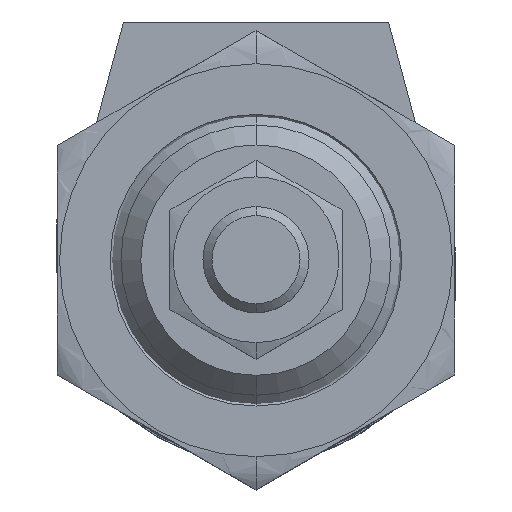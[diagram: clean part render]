
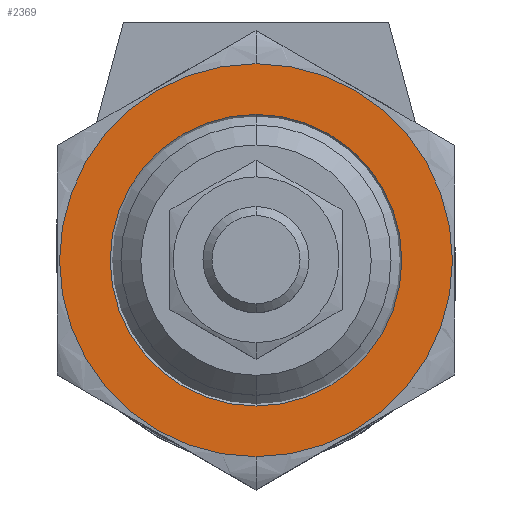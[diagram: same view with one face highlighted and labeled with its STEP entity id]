
A CAD part, top view. The second image highlights one B-rep face of the part: STEP entity #2369.
In plain terms, the highlighted planar face has unit normal (0, 0, 1).
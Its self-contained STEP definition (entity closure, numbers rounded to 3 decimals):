
#2064=CARTESIAN_POINT('',(0.,0.,0.));
#2065=DIRECTION('',(0.,0.,-1.));
#2066=DIRECTION('',(0.,1.,0.));
#2067=AXIS2_PLACEMENT_3D('',#2064,#2065,#2066);
#2069=CARTESIAN_POINT('',(0.,0.,0.));
#2070=DIRECTION('',(0.,0.,-1.));
#2071=DIRECTION('',(0.,-1.,0.));
#2072=AXIS2_PLACEMENT_3D('',#2069,#2070,#2071);
#2074=CARTESIAN_POINT('',(0.,0.,0.));
#2075=DIRECTION('',(0.,0.,-1.));
#2076=DIRECTION('',(0.,1.,0.));
#2077=AXIS2_PLACEMENT_3D('',#2074,#2075,#2076);
#2079=CARTESIAN_POINT('',(0.,0.,0.));
#2080=DIRECTION('',(0.,0.,-1.));
#2081=DIRECTION('',(0.,-1.,0.));
#2082=AXIS2_PLACEMENT_3D('',#2079,#2080,#2081);
#2322=CARTESIAN_POINT('',(0.,11.,0.));
#2323=CARTESIAN_POINT('',(0.,-11.,0.));
#2324=VERTEX_POINT('',#2322);
#2325=VERTEX_POINT('',#2323);
#2326=CARTESIAN_POINT('',(0.,14.821,0.));
#2327=CARTESIAN_POINT('',(0.,-14.821,0.));
#2328=VERTEX_POINT('',#2326);
#2329=VERTEX_POINT('',#2327);
#2352=CARTESIAN_POINT('',(0.,0.,0.));
#2353=DIRECTION('',(0.,0.,-1.));
#2354=DIRECTION('',(-1.,0.,0.));
#2355=AXIS2_PLACEMENT_3D('',#2352,#2353,#2354);
#2356=PLANE('',#2355);
#2358=ORIENTED_EDGE('',*,*,#2357,.T.);
#2360=ORIENTED_EDGE('',*,*,#2359,.T.);
#2361=EDGE_LOOP('',(#2358,#2360));
#2362=FACE_OUTER_BOUND('',#2361,.F.);
#2364=ORIENTED_EDGE('',*,*,#2363,.F.);
#2366=ORIENTED_EDGE('',*,*,#2365,.F.);
#2367=EDGE_LOOP('',(#2364,#2366));
#2368=FACE_BOUND('',#2367,.F.);
#2369=ADVANCED_FACE('',(#2362,#2368),#2356,.F.);
#2068=CIRCLE('',#2067,11.);
#2073=CIRCLE('',#2072,11.);
#2078=CIRCLE('',#2077,14.821);
#2083=CIRCLE('',#2082,14.821);
#2357=EDGE_CURVE('',#2328,#2329,#2078,.T.);
#2359=EDGE_CURVE('',#2329,#2328,#2083,.T.);
#2363=EDGE_CURVE('',#2324,#2325,#2068,.T.);
#2365=EDGE_CURVE('',#2325,#2324,#2073,.T.);
